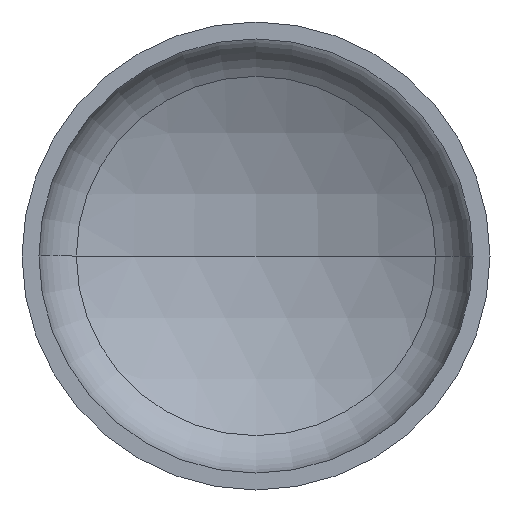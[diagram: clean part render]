
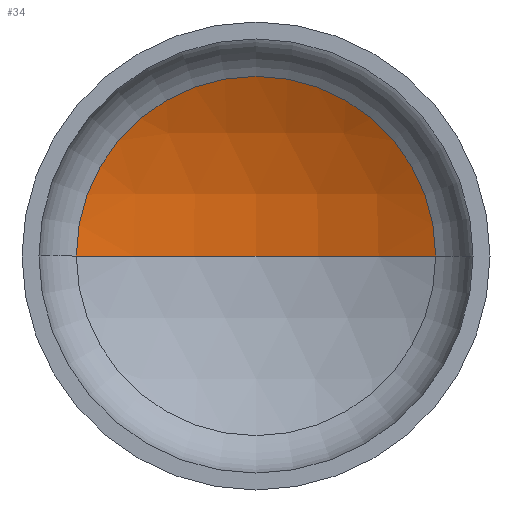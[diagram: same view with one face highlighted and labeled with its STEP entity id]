
A CAD part, front view. The second image highlights one B-rep face of the part: STEP entity #34.
In plain terms, the highlighted spherical face has radius 2080 mm.
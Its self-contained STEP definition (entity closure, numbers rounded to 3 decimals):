
#14 = AXIS2_PLACEMENT_3D ( 'NONE', #140, #305, #402 ) ;
#23 = AXIS2_PLACEMENT_3D ( 'NONE', #383, #235, #237 ) ;
#24 = EDGE_LOOP ( 'NONE', ( #261, #99, #128 ) ) ;
#34 = ADVANCED_FACE ( 'NONE', ( #391 ), #136, .F. ) ;
#42 = VERTEX_POINT ( 'NONE', #229 ) ;
#70 = AXIS2_PLACEMENT_3D ( 'NONE', #356, #236, #271 ) ;
#91 = VERTEX_POINT ( 'NONE', #320 ) ;
#99 = ORIENTED_EDGE ( 'NONE', *, *, #353, .T. ) ;
#108 = CIRCLE ( 'NONE', #277, 2080. ) ;
#128 = ORIENTED_EDGE ( 'NONE', *, *, #349, .T. ) ;
#136 = SPHERICAL_SURFACE ( 'NONE', #70, 2080. ) ;
#140 = CARTESIAN_POINT ( 'NONE',  ( 0., -1374.03, 0. ) ) ;
#141 = VERTEX_POINT ( 'NONE', #289 ) ;
#155 = CIRCLE ( 'NONE', #23, 997.905 ) ;
#229 = CARTESIAN_POINT ( 'NONE',  ( -997.905, 450.959, 0. ) ) ;
#235 = DIRECTION ( 'NONE',  ( 0., -1., 0. ) ) ;
#236 = DIRECTION ( 'NONE',  ( 0., 0., -1. ) ) ;
#237 = DIRECTION ( 'NONE',  ( 1., 0., 0. ) ) ;
#238 = CARTESIAN_POINT ( 'NONE',  ( 0., -1374.03, 0. ) ) ;
#259 = DIRECTION ( 'NONE',  ( 1., 0., 0. ) ) ;
#261 = ORIENTED_EDGE ( 'NONE', *, *, #389, .F. ) ;
#266 = CIRCLE ( 'NONE', #14, 2080. ) ;
#271 = DIRECTION ( 'NONE',  ( -1., 0., 0. ) ) ;
#277 = AXIS2_PLACEMENT_3D ( 'NONE', #238, #406, #259 ) ;
#289 = CARTESIAN_POINT ( 'NONE',  ( 997.905, 450.959, 0. ) ) ;
#305 = DIRECTION ( 'NONE',  ( 0., 0., -1. ) ) ;
#320 = CARTESIAN_POINT ( 'NONE',  ( 0., 705.97, 0. ) ) ;
#349 = EDGE_CURVE ( 'NONE', #141, #42, #155, .T. ) ;
#353 = EDGE_CURVE ( 'NONE', #91, #141, #266, .T. ) ;
#356 = CARTESIAN_POINT ( 'NONE',  ( 0., -1374.03, 0. ) ) ;
#383 = CARTESIAN_POINT ( 'NONE',  ( 0., 450.959, 0. ) ) ;
#389 = EDGE_CURVE ( 'NONE', #91, #42, #108, .T. ) ;
#391 = FACE_OUTER_BOUND ( 'NONE', #24, .T. ) ;
#402 = DIRECTION ( 'NONE',  ( -1., 0., 0. ) ) ;
#406 = DIRECTION ( 'NONE',  ( 0., 0., 1. ) ) ;
